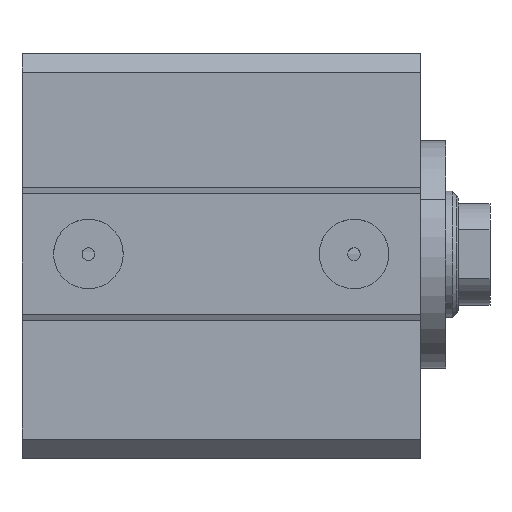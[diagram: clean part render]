
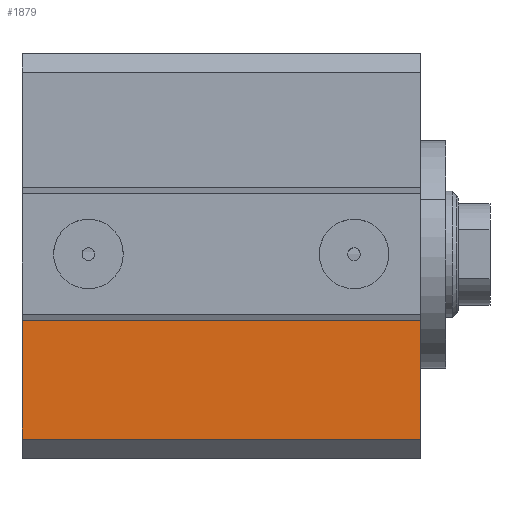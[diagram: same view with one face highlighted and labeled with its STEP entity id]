
A CAD part, top view. The second image highlights one B-rep face of the part: STEP entity #1879.
In plain terms, the highlighted planar face has unit normal (0, 0, 1).
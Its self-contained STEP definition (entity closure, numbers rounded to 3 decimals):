
#996=CARTESIAN_POINT('Vertex',(0.,-29.25,31.75)) ;
#999=CARTESIAN_POINT('Line Origine',(0.,-19.875,31.75)) ;
#1003=CARTESIAN_POINT('Vertex',(0.,-10.5,31.75)) ;
#1217=CARTESIAN_POINT('Vertex',(63.,-10.5,31.75)) ;
#1220=CARTESIAN_POINT('Line Origine',(63.,-19.875,31.75)) ;
#1224=CARTESIAN_POINT('Vertex',(63.,-29.25,31.75)) ;
#1764=CARTESIAN_POINT('Axis2P3D Location',(0.,10.5,31.75)) ;
#1856=CARTESIAN_POINT('Line Origine',(31.5,-10.5,31.75)) ;
#1868=CARTESIAN_POINT('Line Origine',(31.5,-29.25,31.75)) ;
#1000=DIRECTION('Vector Direction',(0.,1.,0.)) ;
#1221=DIRECTION('Vector Direction',(0.,1.,0.)) ;
#1765=DIRECTION('Axis2P3D Direction',(0.,0.,-1.)) ;
#1766=DIRECTION('Axis2P3D XDirection',(0.,1.,0.)) ;
#1857=DIRECTION('Vector Direction',(1.,0.,0.)) ;
#1869=DIRECTION('Vector Direction',(1.,0.,0.)) ;
#1767=AXIS2_PLACEMENT_3D('Plane Axis2P3D',#1764,#1765,#1766) ;
#1874=ORIENTED_EDGE('',*,*,#1860,.F.) ;
#1875=ORIENTED_EDGE('',*,*,#1005,.T.) ;
#1876=ORIENTED_EDGE('',*,*,#1872,.T.) ;
#1877=ORIENTED_EDGE('',*,*,#1226,.F.) ;
#1001=VECTOR('Line Direction',#1000,1.) ;
#1222=VECTOR('Line Direction',#1221,1.) ;
#1858=VECTOR('Line Direction',#1857,1.) ;
#1870=VECTOR('Line Direction',#1869,1.) ;
#1879=ADVANCED_FACE('PartBody',(#1878),#1768,.F.) ;
#1005=EDGE_CURVE('',#1004,#997,#1002,.F.) ;
#1226=EDGE_CURVE('',#1218,#1225,#1223,.F.) ;
#1860=EDGE_CURVE('',#1004,#1218,#1859,.T.) ;
#1872=EDGE_CURVE('',#997,#1225,#1871,.T.) ;
#1873=EDGE_LOOP('',(#1874,#1875,#1876,#1877)) ;
#1878=FACE_OUTER_BOUND('',#1873,.T.) ;
#1002=LINE('Line',#999,#1001) ;
#1223=LINE('Line',#1220,#1222) ;
#1859=LINE('Line',#1856,#1858) ;
#1871=LINE('Line',#1868,#1870) ;
#1768=PLANE('',#1767) ;
#997=VERTEX_POINT('',#996) ;
#1004=VERTEX_POINT('',#1003) ;
#1218=VERTEX_POINT('',#1217) ;
#1225=VERTEX_POINT('',#1224) ;
